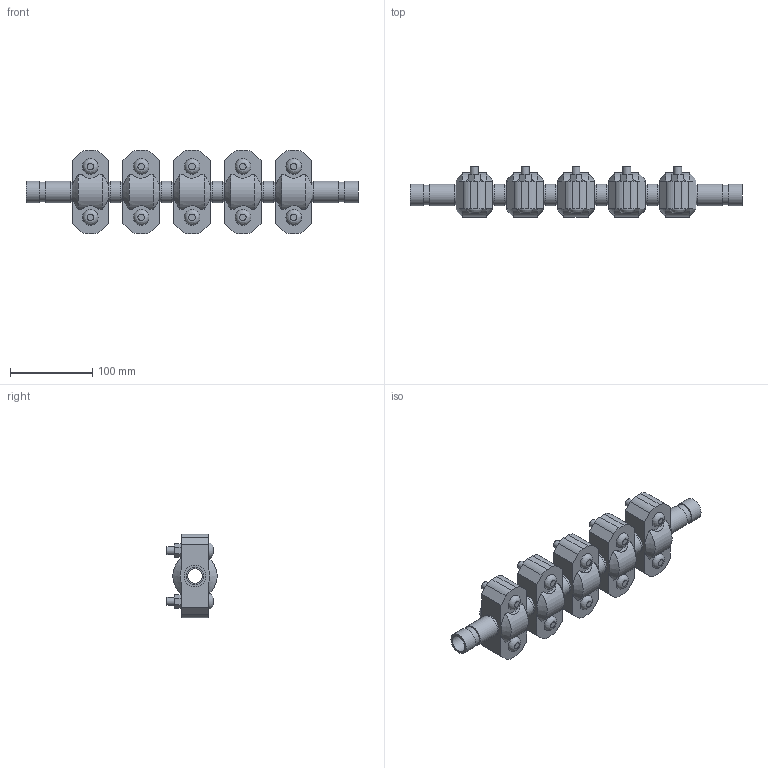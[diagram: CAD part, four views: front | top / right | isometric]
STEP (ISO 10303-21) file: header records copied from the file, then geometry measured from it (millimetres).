
FILE_DESCRIPTION(/* description */ ('VIC EXPANSION JOINT 5 COUPLINGS EXPANDED STYLE 155 (OGS)','CAx-IF Rec.Pracs.---Representation and Presentation of Product Manufacturing Information (PMI)---4.0---2014-10-13'),/* implementation_level */ '2;1');
FILE_NAME(/* name */ 'C:\Users\kkamble\AppData\Roaming\Autodesk\ApplicationPlugins\Victaulic.Temp\A557\Victaulic_IPS_Expansion Joint_Expanded_5 Couplings_Style 155 (OGS)_0.75 (20).stp',/* time_stamp */ '2021-06-27T00:01:58+02:00',/* author */ ('kkamble'),/* organization */ ('Victaulic'),/* preprocessor_version */ 'ST-DEVELOPER v17.2',/* originating_system */ 'Autodesk Inventor 2019',/* authorisation */ '');
FILE_SCHEMA (('AP242_MANAGED_MODEL_BASED_3D_ENGINEERING_MIM_LF { 1 0 10303 442 1 1 4 }'));
Length unit declared in the file: inch
Products named in the file (4): 155-0.75; Nipple-0.75; Nipple-0.75_1; 077-0.75
Assembly tree (11 placements, depth 2):
  155-0.75
    Nipple-0.75  x2
    Nipple-0.75_1  x4
    077-0.75  x5
Bounding box: 404.62 x 61.1 x 101.6 mm (x, y, z)
Volume: 780926.2 mm3; surface area: 202350.7 mm2
Topology: 11 solids, 21 shells, 377 faces, 905 edges, 634 vertices
Faces by surface type: plane 216, cylinder 131, cone 20, bspline 10
Full cylindrical faces by diameter (mm): 9.525 x20, 11.43 x10, 17.78 x5, 20.93 x6, 23.825 x12, 26.67 x28
Entity records: 3001 total; most frequent: CARTESIAN_POINT 587, DIRECTION 485, ORIENTED_EDGE 410, EDGE_CURVE 205, AXIS2_PLACEMENT_3D 194, VERTEX_POINT 146, EDGE_LOOP 111, LINE 97
